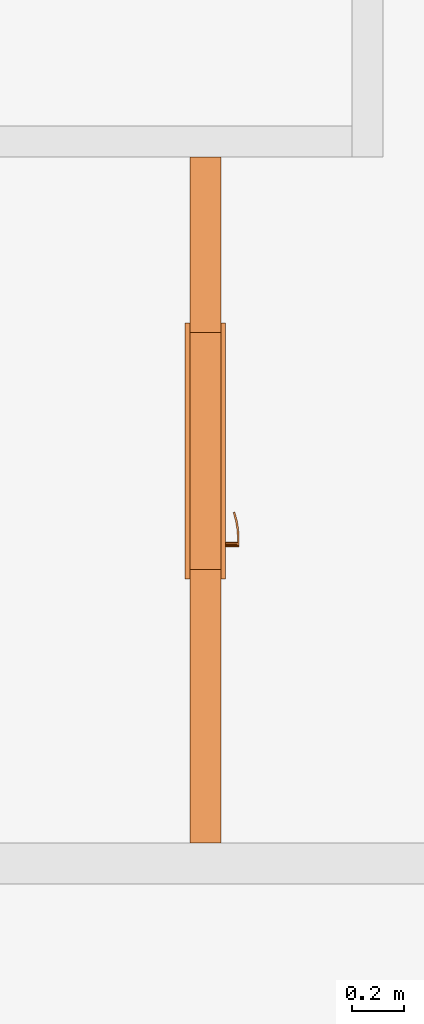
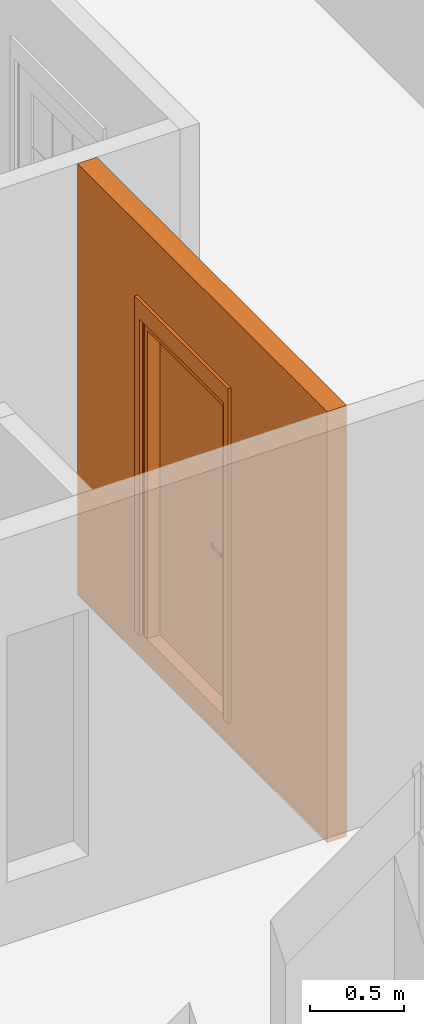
# One storey, part 24 of 66: 2 proxies, 1 opening.
"""IFC2X3 building model written with IfcOpenShell, lengths in millimetres."""

import ifcopenshell
import ifcopenshell.guid

model = None  # the IFC model being written
_history = None  # IfcOwnerHistory: only IFC2X3 demands one
_inside = {}  # id of a spatial element -> (the spatial element, [elements in it])
_under = {}  # id of a project, library or spatial element -> (it, [spatial elements below it])
_declared = {}  # id of a project -> (the project, [libraries it declares])
_typed = {}  # id of a type object -> (the type object, [elements of that type])
_made_of = {}  # id of a material, layer set ... -> (it, [elements and type objects made of it])


def new_model(schema):
    """Start an empty IFC model of exactly this schema.

    Asked for "IFC4X3", IfcOpenShell would pick the latest addendum, in which some entities
    have other attributes; the version numbers below select the first issue.
    IFC2X3 requires an IfcOwnerHistory on every rooted entity: one is made here for all.
    """
    global model, _history
    if schema == "IFC4X3":
        model = ifcopenshell.file(schema_version=(4, 3, 0, 0))
    else:
        model = ifcopenshell.file(schema=schema)
    _inside.clear()
    _under.clear()
    _declared.clear()
    _typed.clear()
    _made_of.clear()
    _history = None
    if model.schema == "IFC2X3":
        org = make("IfcOrganization", Name="unknown")
        user = make(
            "IfcPersonAndOrganization",
            ThePerson=make("IfcPerson", FamilyName="unknown"),
            TheOrganization=org,
        )
        app = make(
            "IfcApplication",
            ApplicationDeveloper=org,
            Version="unknown",
            ApplicationFullName="unknown",
            ApplicationIdentifier="unknown",
        )
        _history = make(
            "IfcOwnerHistory",
            OwningUser=user,
            OwningApplication=app,
            ChangeAction="ADDED",
            CreationDate=0,
        )
    return model


def make(cls, **values):
    """One entity of the class cls with the attributes given. An attribute that is None is left unset."""
    return model.create_entity(
        cls, **{name: value for name, value in values.items() if value is not None}
    )


def entity(cls, *values):
    """Any entity or typed value of the class cls, its attributes in the order of the schema. None: left unset."""
    e = model.create_entity(cls)
    for i, value in enumerate(values):
        if value is not None:
            e[i] = value
    return e


def rooted(cls, **values):
    """An entity with a GlobalId (a new one), such as an element, a storey or a relation."""
    return make(cls, GlobalId=ifcopenshell.guid.new(), OwnerHistory=_history, **values)


def si_unit(unit_type, name, prefix=None):
    """IfcSIUnit, for example si_unit("LENGTHUNIT", "METRE", prefix="MILLI")."""
    return make("IfcSIUnit", UnitType=unit_type, Prefix=prefix, Name=name)


def converted_unit(unit_type, name, factor, base, dimensions=None, offset=None):
    """IfcConversionBasedUnit, such as the inch: factor (a typed value) times the base unit."""
    return make(
        "IfcConversionBasedUnit"
        if offset is None
        else "IfcConversionBasedUnitWithOffset",
        ConversionOffset=offset,
        Dimensions=None
        if dimensions is None
        else entity("IfcDimensionalExponents", *dimensions),
        UnitType=unit_type,
        Name=name,
        ConversionFactor=make(
            "IfcMeasureWithUnit", ValueComponent=factor, UnitComponent=base
        ),
    )


def derived_unit(unit_type, elements):
    """IfcDerivedUnit: a product of units, each with its exponent."""
    return make(
        "IfcDerivedUnit",
        Elements=[
            make("IfcDerivedUnitElement", Unit=unit, Exponent=power)
            for unit, power in elements
        ],
        UnitType=unit_type,
    )


def money_unit(currency):
    """IfcMonetaryUnit."""
    return make("IfcMonetaryUnit", Currency=currency)


def assignment(units):
    """IfcUnitAssignment: the units of a project."""
    return None if units is None else make("IfcUnitAssignment", Units=units)


def point(xyz):
    """IfcCartesianPoint."""
    return None if xyz is None else make("IfcCartesianPoint", Coordinates=xyz)


def direction(xyz):
    """IfcDirection."""
    return None if xyz is None else make("IfcDirection", DirectionRatios=xyz)


def frame(location, z_axis=None, x_axis=None):
    """IfcAxis2Placement3D, a coordinate frame: its origin and axes. An axis left out is left unset."""
    return make(
        "IfcAxis2Placement3D",
        Location=point(location),
        Axis=direction(z_axis),
        RefDirection=direction(x_axis),
    )


def frame_2d(location, x_axis=None):
    """IfcAxis2Placement2D, a coordinate frame in the plane: its origin and x axis."""
    return make(
        "IfcAxis2Placement2D", Location=point(location), RefDirection=direction(x_axis)
    )


def origin_with_axes():
    """The frame at (0, 0, 0) with the z axis (0, 0, 1) and the x axis (1, 0, 0) written out."""
    return frame((0.0, 0.0, 0.0), z_axis=(0.0, 0.0, 1.0), x_axis=(1.0, 0.0, 0.0))


def origin_2d_with_axis():
    """The frame at (0, 0) in the plane with the x axis (1, 0) written out."""
    return frame_2d((0.0, 0.0), x_axis=(1.0, 0.0))


def place(relative_to, where):
    """IfcLocalPlacement: puts the frame where relative to a parent placement (None: the world)."""
    return make(
        "IfcLocalPlacement", PlacementRelTo=relative_to, RelativePlacement=where
    )


def context(
    kind, dimensions, precision=None, world=None, true_north=None, identifier=None
):
    """IfcGeometricRepresentationContext, for example the 3D "Model" context."""
    return make(
        "IfcGeometricRepresentationContext",
        ContextIdentifier=identifier,
        ContextType=kind,
        CoordinateSpaceDimension=dimensions,
        Precision=precision,
        WorldCoordinateSystem=world,
        TrueNorth=true_north,
    )


def subcontext(parent, identifier, kind, view, scale=None):
    """IfcGeometricRepresentationSubContext, for example "Body" below "Model"."""
    return make(
        "IfcGeometricRepresentationSubContext",
        ContextIdentifier=identifier,
        ContextType=kind,
        ParentContext=parent,
        TargetScale=scale,
        TargetView=view,
    )


def project(units=None, contexts=None):
    """IfcProject with its units and contexts."""
    return rooted(
        "IfcProject",
        Name="project",
        RepresentationContexts=contexts,
        UnitsInContext=assignment(units),
    )


def spatial(cls, under=None, at=None, **own):
    """A site, building, storey or space (cls), placed at a placement, below another one or the project."""
    s = rooted(cls, ObjectPlacement=at, **own)
    if under is not None:
        _under.setdefault(under.id(), (under, []))[1].append(s)
    return s


def profile(cls, at=None, kind="AREA", **sizes):
    """A parametric profile (cls). Its sizes go by their IFC names, for example OverallWidth=200.0."""
    return make(cls, ProfileType=kind, Position=at, **sizes)


def rectangle(**sizes):
    """IfcRectangleProfileDef."""
    return profile("IfcRectangleProfileDef", **sizes)


def extrude(swept, where, along, depth):
    """IfcExtrudedAreaSolid: the profile swept, set in the frame where, extruded along a direction by depth."""
    return make(
        "IfcExtrudedAreaSolid",
        SweptArea=swept,
        Position=where,
        ExtrudedDirection=direction(along),
        Depth=depth,
    )


def faces_of(points, faces, orient=None, outer=None):
    """IfcFace entities. A face is a list of loops; a loop is a list of indices into points, from 0.

    orient and outer hold one flag for each loop. By default every Orientation is true, the
    first loop of a face is its IfcFaceOuterBound and the others are IfcFaceBound.
    """
    made = []
    for i, loops in enumerate(faces):
        bounds = []
        for j, loop in enumerate(loops):
            is_outer = j == 0 if outer is None else outer[i][j]
            bounds.append(
                make(
                    "IfcFaceOuterBound" if is_outer else "IfcFaceBound",
                    Bound=make("IfcPolyLoop", Polygon=[points[k] for k in loop]),
                    Orientation=True if orient is None else orient[i][j],
                )
            )
        made.append(make("IfcFace", Bounds=bounds))
    return made


def open_shell(faces, orient=None, outer=None):
    """The faces of one IfcOpenShell. surface_model builds it on its shared points."""
    return ("IfcOpenShell", faces, orient, outer)


def faceted_brep(points, faces, orient=None, outer=None, voids=None):
    """IfcFacetedBrep: a solid bounded by flat faces; with voids (closed shells), ...WithVoids."""
    shared = [point(p) for p in points]
    hull = make("IfcClosedShell", CfsFaces=faces_of(shared, faces, orient, outer))
    if voids is None:
        return make("IfcFacetedBrep", Outer=hull)
    return make(
        "IfcFacetedBrepWithVoids",
        Outer=hull,
        Voids=[
            make(cls, CfsFaces=faces_of(shared, fs, o, b)) for cls, fs, o, b in voids
        ],
    )


def surface_model(cls, points, shells):
    """IfcFaceBasedSurfaceModel or IfcShellBasedSurfaceModel (cls): surfaces that need not close."""
    shared = [point(p) for p in points]
    made = [make(c, CfsFaces=faces_of(shared, fs, o, b)) for c, fs, o, b in shells]
    if cls == "IfcFaceBasedSurfaceModel":
        return make(cls, FbsmFaces=made)
    return make(cls, SbsmBoundary=made)


def shape(context_of_items, identifier, shape_type, items):
    """IfcShapeRepresentation: the items that make up one representation, for example the "Body"."""
    return make(
        "IfcShapeRepresentation",
        ContextOfItems=context_of_items,
        RepresentationIdentifier=identifier,
        RepresentationType=shape_type,
        Items=items,
    )


def source(mapping_origin, context_of_items, identifier, shape_type, items):
    """IfcRepresentationMap: a shape defined once, which mapped items show again and again."""
    return make(
        "IfcRepresentationMap",
        MappingOrigin=mapping_origin,
        MappedRepresentation=shape(context_of_items, identifier, shape_type, items),
    )


def transform(
    local_origin,
    x_axis=None,
    y_axis=None,
    z_axis=None,
    scale=None,
    scale2=None,
    scale3=None,
    uniform=True,
):
    """IfcCartesianTransformationOperator3D, or its non-uniform kind. x_axis, y_axis, z_axis: its Axis1, 2, 3."""
    if uniform:
        return make(
            "IfcCartesianTransformationOperator3D",
            Axis1=direction(x_axis),
            Axis2=direction(y_axis),
            LocalOrigin=point(local_origin),
            Scale=scale,
            Axis3=direction(z_axis),
        )
    return make(
        "IfcCartesianTransformationOperator3DnonUniform",
        Axis1=direction(x_axis),
        Axis2=direction(y_axis),
        LocalOrigin=point(local_origin),
        Scale=scale,
        Axis3=direction(z_axis),
        Scale2=scale2,
        Scale3=scale3,
    )


def mapped(mapping_source, mapping_target):
    """IfcMappedItem: shows the shape of a source again, moved by a transform."""
    return make(
        "IfcMappedItem", MappingSource=mapping_source, MappingTarget=mapping_target
    )


def material(Name=None, Category=None):
    """IfcMaterial."""
    return make("IfcMaterial", Name=Name, Category=Category)


def made_of(thing, what):
    """Note that an element or type object is made of a material, layer set ...; save() writes the relation."""
    if what is not None:
        _made_of.setdefault(what.id(), (what, []))[1].append(thing)
    return thing


def type_object(cls, material=None, **own):
    """A type object (cls), such as IfcWallType, which elements share."""
    return made_of(rooted(cls, **own), material)


def element(
    cls,
    number,
    at=None,
    inside=None,
    cuts=None,
    type_object=None,
    material=None,
    context=None,
    identifier="Body",
    shape_type=None,
    held_by="IfcProductDefinitionShape",
    body=None,
    shapes=None,
    **own,
):
    """One element of the class cls, such as IfcWall. Its Tag is "e" and its number.

    at: its placement. inside: the storey or other place that contains it. cuts: it is an
    opening in that element (IfcRelVoidsElement). A single representation is given by context,
    identifier, shape_type and body (its items); several are given by shapes. held_by: the class
    of the entity that holds the representations. save() writes the other relations.
    """
    e = rooted(cls, Tag="e%d" % number, ObjectPlacement=at, **own)
    if body is not None:
        shapes = [shape(context, identifier, shape_type, body)]
    if shapes is not None:
        e.Representation = make(held_by, Representations=shapes)
    if inside is not None:
        _inside.setdefault(inside.id(), (inside, []))[1].append(e)
    if cuts is not None:
        rooted(
            "IfcRelVoidsElement", RelatingBuildingElement=cuts, RelatedOpeningElement=e
        )
    if type_object is not None:
        _typed.setdefault(type_object.id(), (type_object, []))[1].append(e)
    return made_of(e, material)


def fill(opening, filler):
    """IfcRelFillsElement: the door or window that sits in an opening."""
    return rooted(
        "IfcRelFillsElement",
        RelatingOpeningElement=opening,
        RelatedBuildingElement=filler,
    )


def aggregate(whole, parts):
    """IfcRelAggregates: a whole, such as a stair, and the parts it consists of."""
    return rooted("IfcRelAggregates", RelatingObject=whole, RelatedObjects=parts)


def save(model, path):
    """Write the relations noted so far, then the file.

    IfcRelAggregates (storeys below a building ...), IfcRelContainedInSpatialStructure (elements
    in a storey), IfcRelDefinesByType, IfcRelAssociatesMaterial and IfcRelDeclares: one each for
    every whole, place, type object, material and project.
    """
    for whole, parts in _under.values():
        aggregate(whole, parts)
    for where, things in _inside.values():
        rooted(
            "IfcRelContainedInSpatialStructure",
            RelatedElements=things,
            RelatingStructure=where,
        )
    for kind, things in _typed.values():
        rooted("IfcRelDefinesByType", RelatedObjects=things, RelatingType=kind)
    for what, things in _made_of.values():
        rooted("IfcRelAssociatesMaterial", RelatedObjects=things, RelatingMaterial=what)
    for by, libraries in _declared.values():
        rooted("IfcRelDeclares", RelatingContext=by, RelatedDefinitions=libraries)
    model.write(path)


model = new_model("IFC2X3")

# Units and contexts
model_context = context("Model", 3, precision=0.01, world=origin_with_axes(), true_north=direction((0.34421633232, 0.938890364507)))
body_context = subcontext(model_context, "Body", "Model", "MODEL_VIEW")
ifc_project = project(units=[si_unit("LENGTHUNIT", "METRE", prefix="MILLI"), si_unit("AREAUNIT", "SQUARE_METRE"), si_unit("VOLUMEUNIT", "CUBIC_METRE"), converted_unit("PLANEANGLEUNIT", "DEGREE", entity("IfcPlaneAngleMeasure", 0.0174532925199), si_unit("PLANEANGLEUNIT", "RADIAN"), dimensions=[0, 0, 0, 0, 0, 0, 0]), si_unit("SOLIDANGLEUNIT", "STERADIAN"), money_unit("USD"), converted_unit("TIMEUNIT", "Year", entity("IfcTimeMeasure", 31556926.0), si_unit("TIMEUNIT", "SECOND"), dimensions=[0, 0, 1, 0, 0, 0, 0]), si_unit("MASSUNIT", "GRAM", prefix="KILO"), si_unit("THERMODYNAMICTEMPERATUREUNIT", "DEGREE_CELSIUS"), si_unit("LUMINOUSINTENSITYUNIT", "LUMEN"), si_unit("ENERGYUNIT", "JOULE", prefix="MEGA"), derived_unit("THERMALCONDUCTANCEUNIT", [(si_unit("POWERUNIT", "WATT"), 1), (si_unit("LENGTHUNIT", "METRE"), -1), (si_unit("THERMODYNAMICTEMPERATUREUNIT", "KELVIN"), -1)]), derived_unit("SPECIFICHEATCAPACITYUNIT", [(si_unit("ENERGYUNIT", "JOULE"), 1), (si_unit("MASSUNIT", "GRAM", prefix="KILO"), -1), (si_unit("THERMODYNAMICTEMPERATUREUNIT", "KELVIN"), -1)]), derived_unit("MASSDENSITYUNIT", [(si_unit("MASSUNIT", "GRAM", prefix="KILO"), 1), (si_unit("VOLUMEUNIT", "CUBIC_METRE"), -1)])], contexts=[model_context])

# Site, building, storey
site_placement = place(None, origin_with_axes())
site = spatial("IfcSite", under=ifc_project, at=site_placement, Name="USTRONIE MORSKIE", CompositionType="ELEMENT")
building_placement = place(site_placement, origin_with_axes())
building = spatial("IfcBuilding", under=site, at=building_placement, Name="Budynek", CompositionType="ELEMENT")
storey_placement = place(building_placement, frame((0.0, 0.0, 10000.0), z_axis=(0.0, 0.0, 1.0), x_axis=(1.0, 0.0, 0.0)))
storey = spatial("IfcBuildingStorey", under=building, at=storey_placement, Name="PIĘTRO 3", CompositionType="ELEMENT", Elevation=10000.0)

# Proxies, opening
ifc_material = material(Name="Bloczki silikatowe")
building_element_proxy_type_1 = type_object("IfcBuildingElementProxyType", Name="Bloczki silikatowe 120", PredefinedType="NOTDEFINED")
proxy_1_placement = place(storey_placement, frame((404537.920919, 739651.199937, -160.0), z_axis=(0.0, 0.0, 1.0), x_axis=(0.0, -1.0, 0.0)))
proxy_1 = element("IfcBuildingElementProxy", 1, at=proxy_1_placement, inside=storey, type_object=building_element_proxy_type_1, material=ifc_material, Name="SW-04", context=body_context, shape_type="Brep", body=[
    faceted_brep([(2720.00090117, 60.0, 0.0), (2720.00090117, -60.0, 0.0), (59.9999999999, -60.0, 0.0), (59.9999999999, 60.0, 0.0), (2720.00090117, 60.0, 2800.0), (2720.00090117, -60.0, 2800.0), (59.9999999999, -60.0, 2800.0), (59.9999999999, 60.0, 2800.0)], [[[0, 1, 2, 3]], [[1, 0, 4, 5]], [[1, 5, 6, 2]], [[7, 3, 2, 6]], [[4, 0, 3, 7]], [[5, 4, 7, 6]]]),
])
opening_placement = place(proxy_1_placement, frame((1200.00090117, 0.0, 160.0), z_axis=(0.0, 0.0, 1.0), x_axis=(1.0, 0.0, 0.0)))
opening = element("IfcOpeningElement", 2, at=opening_placement, cuts=proxy_1, Name="Dw.4", context=body_context, shape_type="SweptSolid", body=[
    extrude(rectangle(XDim=920.0, YDim=2070.0, at=origin_2d_with_axis()), frame((0.0, -120.0, 1035.0), z_axis=(0.0, -1.0, 0.0), x_axis=(-1.0, 0.0, 0.0)), (0.0, 0.0, -1.0), 360.0),
    extrude(rectangle(XDim=994.0, YDim=2177.0, at=origin_2d_with_axis()), frame((0.0, -60.0, 1088.5), z_axis=(0.0, -1.0, 0.0), x_axis=(-1.0, 0.0, 0.0)), (0.0, 0.0, 1.0), 120.0),
    extrude(rectangle(XDim=994.0, YDim=2177.0, at=origin_2d_with_axis()), frame((0.0, 60.0, 1088.5), z_axis=(0.0, 1.0, 0.0), x_axis=(-1.0, 0.0, 0.0)), (0.0, 0.0, 1.0), 120.0),
])
building_element_proxy_type_2 = type_object("IfcBuildingElementProxyType", Name="Drzwi 23", PredefinedType="NOTDEFINED")
shared_shape = source(origin_with_axes(), body_context, "Body", "SurfaceModel", [
    faceted_brep([(460.0, -115.0, 0.0), (460.0, -120.0, 0.0), (435.0, -120.0, 0.0), (435.0, -115.0, 0.0), (460.0, -115.0, 2070.0), (460.0, -120.0, 2070.0), (435.0, -120.0, 2045.0), (435.0, -115.0, 2045.0)], [[[0, 1, 2, 3]], [[4, 5, 1, 0]], [[1, 5, 6, 2]], [[3, 2, 6, 7]], [[0, 3, 7, 4]], [[7, 6, 5, 4]]]),
    faceted_brep([(-460.0, -115.0, 2070.0), (-460.0, -120.0, 2070.0), (-435.0, -120.0, 2045.0), (-435.0, -115.0, 2045.0), (-460.0, -115.0, 0.0), (-460.0, -120.0, 0.0), (-435.0, -120.0, 0.0), (-435.0, -115.0, 0.0)], [[[0, 1, 2, 3]], [[4, 5, 1, 0]], [[1, 5, 6, 2]], [[3, 2, 6, 7]], [[0, 3, 7, 4]], [[7, 6, 5, 4]]]),
    faceted_brep([(435.0, -115.0, 2045.0), (435.0, -120.0, 2045.0), (-435.0, -120.0, 2045.0), (-435.0, -115.0, 2045.0), (460.0, -115.0, 2070.0), (460.0, -120.0, 2070.0), (-460.0, -120.0, 2070.0), (-460.0, -115.0, 2070.0)], [[[0, 1, 2, 3]], [[4, 5, 1, 0]], [[1, 5, 6, 2]], [[3, 2, 6, 7]], [[0, 3, 7, 4]], [[7, 6, 5, 4]]]),
    faceted_brep([(497.0, -139.0, 0.0), (447.0, -139.0, 0.0), (447.0, -120.0, 0.0), (497.0, -120.0, 0.0), (497.0, -139.0, 2177.0), (447.0, -139.0, 2057.0), (447.0, -120.0, 2057.0), (497.0, -120.0, 2177.0)], [[[0, 1, 2, 3]], [[0, 4, 5, 1]], [[1, 5, 6, 2]], [[3, 2, 6, 7]], [[4, 0, 3, 7]], [[5, 4, 7, 6]]]),
    faceted_brep([(-497.0, -139.0, 2177.0), (-447.0, -139.0, 2057.0), (-447.0, -120.0, 2057.0), (-497.0, -120.0, 2177.0), (-497.0, -139.0, 0.0), (-447.0, -139.0, 0.0), (-447.0, -120.0, 0.0), (-497.0, -120.0, 0.0)], [[[0, 1, 2, 3]], [[0, 4, 5, 1]], [[1, 5, 6, 2]], [[3, 2, 6, 7]], [[4, 0, 3, 7]], [[5, 4, 7, 6]]]),
    faceted_brep([(497.0, -139.0, 2177.0), (447.0, -139.0, 2057.0), (447.0, -120.0, 2057.0), (497.0, -120.0, 2177.0), (-497.0, -139.0, 2177.0), (-447.0, -139.0, 2057.0), (-447.0, -120.0, 2057.0), (-497.0, -120.0, 2177.0)], [[[0, 1, 2, 3]], [[0, 4, 5, 1]], [[1, 5, 6, 2]], [[3, 2, 6, 7]], [[4, 0, 3, 7]], [[5, 4, 7, 6]]]),
    faceted_brep([(497.0, 19.0, 0.0), (497.0, 0.0, 0.0), (447.0, 0.0, 0.0), (447.0, 19.0, 0.0), (497.0, 19.0, 2177.0), (497.0, 0.0, 2177.0), (447.0, 0.0, 2057.0), (447.0, 19.0, 2057.0)], [[[0, 1, 2, 3]], [[4, 5, 1, 0]], [[1, 5, 6, 2]], [[3, 2, 6, 7]], [[0, 3, 7, 4]], [[7, 6, 5, 4]]]),
    faceted_brep([(-497.0, 19.0, 2177.0), (-497.0, 0.0, 2177.0), (-447.0, 0.0, 2057.0), (-447.0, 19.0, 2057.0), (-497.0, 19.0, 0.0), (-497.0, 0.0, 0.0), (-447.0, 0.0, 0.0), (-447.0, 19.0, 0.0)], [[[0, 1, 2, 3]], [[4, 5, 1, 0]], [[1, 5, 6, 2]], [[3, 2, 6, 7]], [[0, 3, 7, 4]], [[7, 6, 5, 4]]]),
    faceted_brep([(497.0, 19.0, 2177.0), (497.0, 0.0, 2177.0), (447.0, 0.0, 2057.0), (447.0, 19.0, 2057.0), (-497.0, 19.0, 2177.0), (-497.0, 0.0, 2177.0), (-447.0, 0.0, 2057.0), (-447.0, 19.0, 2057.0)], [[[0, 1, 2, 3]], [[4, 5, 1, 0]], [[1, 5, 6, 2]], [[3, 2, 6, 7]], [[0, 3, 7, 4]], [[7, 6, 5, 4]]]),
    faceted_brep([(400.0, -40.0, 0.0), (400.0, -115.0, 0.0), (400.0, -115.0, 2000.0), (400.0, -40.0, 2000.0), (412.0, -40.0, 0.0), (412.0, 0.0, 0.0), (460.0, 0.0, 0.0), (460.0, -115.0, 0.0), (460.0, -115.0, 2000.0), (412.0, -40.0, 2000.0), (460.0, 0.0, 2000.0), (412.0, 0.0, 2000.0)], [[[0, 1, 2, 3]], [[4, 5, 6, 7, 1, 0]], [[1, 7, 8, 2]], [[9, 3, 2, 8, 10, 11]], [[9, 4, 0, 3]], [[11, 5, 4, 9]], [[11, 10, 6, 5]], [[6, 10, 8, 7]]]),
    faceted_brep([(-412.0, -40.0, 2000.0), (-412.0, 0.0, 2000.0), (-460.0, 0.0, 2000.0), (-460.0, -115.0, 2000.0), (-400.0, -115.0, 2000.0), (-400.0, -40.0, 2000.0), (-412.0, -40.0, 0.0), (-412.0, 0.0, 0.0), (-460.0, 0.0, 0.0), (-460.0, -115.0, 0.0), (-400.0, -115.0, 0.0), (-400.0, -40.0, 0.0)], [[[0, 1, 2, 3, 4, 5]], [[0, 6, 7, 1]], [[7, 8, 2, 1]], [[2, 8, 9, 3]], [[3, 9, 10, 4]], [[5, 4, 10, 11]], [[5, 11, 6, 0]], [[6, 11, 10, 9, 8, 7]]]),
    faceted_brep([(412.0, 0.0, 2012.0), (-412.0, 0.0, 2012.0), (-412.0, 0.0, 2000.0), (-460.0, 0.0, 2000.0), (-460.0, 0.0, 2070.0), (460.0, 0.0, 2070.0), (460.0, 0.0, 2000.0), (412.0, 0.0, 2000.0), (412.0, -40.0, 2012.0), (-412.0, -40.0, 2012.0), (-412.0, -40.0, 2000.0), (-400.0, -40.0, 2000.0), (-400.0, -115.0, 2000.0), (-460.0, -115.0, 2000.0), (-460.0, -115.0, 2070.0), (460.0, -115.0, 2070.0), (460.0, -115.0, 2000.0), (412.0, -40.0, 2000.0), (400.0, -115.0, 2000.0), (400.0, -40.0, 2000.0)], [[[0, 1, 2, 3, 4, 5, 6, 7]], [[0, 8, 9, 1]], [[1, 9, 10, 2]], [[10, 11, 12, 13, 3, 2]], [[4, 3, 13, 14]], [[5, 4, 14, 15]], [[6, 5, 15, 16]], [[17, 7, 6, 16, 18, 19]], [[7, 17, 8, 0]], [[10, 9, 8, 17, 19, 11]], [[19, 18, 12, 11]], [[12, 18, 16, 15, 14, 13]]]),
    faceted_brep([(390.5, -40.0, 1060.0), (333.5, -40.0, 1060.0), (333.5, -43.0, 1060.0), (390.5, -43.0, 1060.0), (390.5, -40.0, 870.0), (333.5, -40.0, 870.0), (333.5, -43.0, 870.0), (390.5, -43.0, 870.0)], [[[0, 1, 2, 3]], [[0, 4, 5, 1]], [[1, 5, 6, 2]], [[3, 2, 6, 7]], [[4, 0, 3, 7]], [[5, 4, 7, 6]]]),
    faceted_brep([(362.0, -104.0, 990.0), (367.0, -104.0, 991.339745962), (367.0, -111.0, 991.339745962), (362.0, -111.0, 990.0), (337.0, -104.0, 990.0), (337.0, -104.0, 1010.0), (362.0, -104.0, 1010.0), (367.0, -104.0, 1008.66025404), (370.660254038, -104.0, 1005.0), (372.0, -104.0, 1000.0), (370.660254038, -104.0, 995.0), (370.660254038, -111.0, 995.0), (372.0, -111.0, 1000.0), (370.660254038, -111.0, 1005.0), (367.0, -111.0, 1008.66025404), (362.0, -111.0, 1010.0), (337.0, -111.0, 1010.0), (337.0, -111.0, 990.0)], [[[0, 1, 2, 3]], [[0, 4, 5, 6, 7, 8, 9, 10, 1]], [[1, 10, 11, 2]], [[3, 2, 11, 12, 13, 14, 15, 16, 17]], [[4, 0, 3, 17]], [[5, 4, 17, 16]], [[6, 5, 16, 15]], [[7, 6, 15, 14]], [[8, 7, 14, 13]], [[9, 8, 13, 12]], [[10, 9, 12, 11]]]),
    surface_model("IfcShellBasedSurfaceModel", [(337.0, -104.0, 1010.0), (323.901717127, -104.0, 1009.60730092), (323.596090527, -111.0, 1009.60730092), (337.0, -104.0, 990.0), (323.901717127, -104.0, 990.392699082), (296.890283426, -108.663544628, 1008.82190275), (337.0, -111.0, 1010.0), (337.0, -111.0, 990.0), (297.804837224, -101.716818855, 991.178097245), (297.804837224, -101.716818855, 1008.82190275), (296.890283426, -108.663544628, 991.178097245), (323.596090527, -111.0, 990.392699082), (272.006256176, -97.1678329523, 991.963495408), (272.006256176, -97.1678329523, 1008.03650459), (270.489735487, -104.008415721, 1008.03650459), (270.489735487, -104.008415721, 991.963495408), (246.702316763, -90.3876628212, 992.748893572), (246.702316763, -90.3876628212, 1007.25110643), (244.59537082, -97.0700416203, 1007.25110643), (244.59537082, -97.0700416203, 992.748893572), (238.829442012, -87.5221707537, 993.0), (238.829442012, -87.5221707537, 1007.0), (236.538795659, -94.1376880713, 1007.0), (236.538795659, -94.1376880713, 993.0)], [open_shell([[[0, 1, 2]], [[0, 3, 4, 1]], [[1, 5, 2]], [[0, 2, 6]], [[4, 3, 7]], [[1, 4, 8, 9]], [[1, 9, 5]], [[2, 5, 10, 11]], [[6, 2, 11, 7]], [[4, 7, 11]], [[8, 4, 11]], [[9, 8, 12, 13]], [[9, 14, 5]], [[5, 14, 15, 10]], [[8, 11, 10]], [[12, 8, 10]], [[13, 12, 16, 17]], [[9, 13, 14]], [[14, 18, 19, 15]], [[12, 10, 15]], [[16, 12, 15]], [[17, 16, 20, 21]], [[13, 17, 18]], [[13, 18, 14]], [[18, 22, 23, 19]], [[16, 15, 19]], [[20, 16, 19]], [[21, 20, 23, 22]], [[17, 21, 22]], [[17, 22, 18]], [[20, 19, 23]]])]),
    faceted_brep([(351.607695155, -53.0, 994.0), (350.0, -53.0, 1000.0), (349.0, -43.0, 1000.0), (350.741669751, -43.0, 993.5), (356.0, -53.0, 989.607695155), (362.0, -53.0, 988.0), (368.0, -53.0, 989.607695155), (372.392304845, -53.0, 994.0), (374.0, -53.0, 1000.0), (372.392304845, -53.0, 1006.0), (368.0, -53.0, 1010.39230485), (362.0, -53.0, 1012.0), (356.0, -53.0, 1010.39230485), (351.607695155, -53.0, 1006.0), (350.741669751, -43.0, 1006.5), (355.5, -43.0, 1011.25833025), (362.0, -43.0, 1013.0), (368.5, -43.0, 1011.25833025), (373.258330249, -43.0, 1006.5), (375.0, -43.0, 1000.0), (373.258330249, -43.0, 993.5), (368.5, -43.0, 988.741669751), (362.0, -43.0, 987.0), (355.5, -43.0, 988.741669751)], [[[0, 1, 2, 3]], [[1, 0, 4, 5, 6, 7, 8, 9, 10, 11, 12, 13]], [[1, 13, 14, 2]], [[2, 14, 15, 16, 17, 18, 19, 20, 21, 22, 23, 3]], [[4, 0, 3, 23]], [[5, 4, 23, 22]], [[6, 5, 22, 21]], [[7, 6, 21, 20]], [[8, 7, 20, 19]], [[9, 8, 19, 18]], [[10, 9, 18, 17]], [[11, 10, 17, 16]], [[12, 11, 16, 15]], [[13, 12, 15, 14]]]),
    faceted_brep([(344.679491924, -47.0, 895.0), (342.0, -47.0, 905.0), (340.0, -43.0, 905.0), (342.947441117, -43.0, 894.0), (352.0, -47.0, 887.679491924), (362.0, -47.0, 885.0), (372.0, -47.0, 887.679491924), (379.320508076, -47.0, 895.0), (382.0, -47.0, 905.0), (379.320508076, -47.0, 915.0), (372.0, -47.0, 922.320508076), (362.0, -47.0, 925.0), (352.0, -47.0, 922.320508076), (344.679491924, -47.0, 915.0), (342.947441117, -43.0, 916.0), (351.0, -43.0, 924.052558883), (362.0, -43.0, 927.0), (373.0, -43.0, 924.052558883), (381.052558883, -43.0, 916.0), (384.0, -43.0, 905.0), (381.052558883, -43.0, 894.0), (373.0, -43.0, 885.947441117), (362.0, -43.0, 883.0), (351.0, -43.0, 885.947441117)], [[[0, 1, 2, 3]], [[1, 0, 4, 5, 6, 7, 8, 9, 10, 11, 12, 13]], [[1, 13, 14, 2]], [[2, 14, 15, 16, 17, 18, 19, 20, 21, 22, 23, 3]], [[4, 0, 3, 23]], [[5, 4, 23, 22]], [[6, 5, 22, 21]], [[7, 6, 21, 20]], [[8, 7, 20, 19]], [[9, 8, 19, 18]], [[10, 9, 18, 17]], [[11, 10, 17, 16]], [[12, 11, 16, 15]], [[13, 12, 15, 14]]]),
    faceted_brep([(357.050252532, -49.0, 909.050252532), (355.0, -49.0, 914.0), (354.0, -47.0, 914.0), (356.343145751, -47.0, 908.343145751), (362.0, -49.0, 907.0), (366.949747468, -49.0, 909.050252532), (369.0, -49.0, 914.0), (366.949747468, -49.0, 918.949747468), (362.0, -49.0, 921.0), (357.050252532, -49.0, 918.949747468), (356.343145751, -47.0, 919.656854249), (362.0, -47.0, 922.0), (367.656854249, -47.0, 919.656854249), (370.0, -47.0, 914.0), (367.656854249, -47.0, 908.343145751), (362.0, -47.0, 906.0)], [[[0, 1, 2, 3]], [[1, 0, 4, 5, 6, 7, 8, 9]], [[1, 9, 10, 2]], [[2, 10, 11, 12, 13, 14, 15, 3]], [[4, 0, 3, 15]], [[5, 4, 15, 14]], [[6, 5, 14, 13]], [[7, 6, 13, 12]], [[8, 7, 12, 11]], [[9, 8, 11, 10]]]),
    faceted_brep([(362.0, -53.0, 1010.0), (357.0, -53.0, 1008.66025404), (357.0, -104.0, 1008.66025404), (362.0, -104.0, 1010.0), (367.0, -53.0, 1008.66025404), (370.660254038, -53.0, 1005.0), (372.0, -53.0, 1000.0), (370.660254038, -53.0, 995.0), (367.0, -53.0, 991.339745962), (362.0, -53.0, 990.0), (357.0, -53.0, 991.339745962), (353.339745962, -53.0, 995.0), (352.0, -53.0, 1000.0), (353.339745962, -53.0, 1005.0), (353.339745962, -104.0, 1005.0), (352.0, -104.0, 1000.0), (353.339745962, -104.0, 995.0), (357.0, -104.0, 991.339745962), (362.0, -104.0, 990.0), (367.0, -104.0, 991.339745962), (370.660254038, -104.0, 995.0), (372.0, -104.0, 1000.0), (370.660254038, -104.0, 1005.0), (367.0, -104.0, 1008.66025404)], [[[0, 1, 2, 3]], [[0, 4, 5, 6, 7, 8, 9, 10, 11, 12, 13, 1]], [[1, 13, 14, 2]], [[3, 2, 14, 15, 16, 17, 18, 19, 20, 21, 22, 23]], [[4, 0, 3, 23]], [[5, 4, 23, 22]], [[6, 5, 22, 21]], [[7, 6, 21, 20]], [[8, 7, 20, 19]], [[9, 8, 19, 18]], [[10, 9, 18, 17]], [[11, 10, 17, 16]], [[12, 11, 16, 15]], [[13, 12, 15, 14]]]),
    faceted_brep([(390.5, 0.0, 1060.0), (390.5, 3.0, 1060.0), (333.5, 3.0, 1060.0), (333.5, 0.0, 1060.0), (390.5, 0.0, 870.0), (390.5, 3.0, 870.0), (333.5, 3.0, 870.0), (333.5, 0.0, 870.0)], [[[0, 1, 2, 3]], [[4, 5, 1, 0]], [[1, 5, 6, 2]], [[3, 2, 6, 7]], [[0, 3, 7, 4]], [[7, 6, 5, 4]]]),
    faceted_brep([(362.0, 64.0, 990.0), (362.0, 71.0, 990.0), (367.0, 71.0, 991.339745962), (367.0, 64.0, 991.339745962), (337.0, 64.0, 990.0), (337.0, 71.0, 990.0), (337.0, 71.0, 1010.0), (362.0, 71.0, 1010.0), (367.0, 71.0, 1008.66025404), (370.660254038, 71.0, 1005.0), (372.0, 71.0, 1000.0), (370.660254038, 71.0, 995.0), (370.660254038, 64.0, 995.0), (372.0, 64.0, 1000.0), (370.660254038, 64.0, 1005.0), (367.0, 64.0, 1008.66025404), (362.0, 64.0, 1010.0), (337.0, 64.0, 1010.0)], [[[0, 1, 2, 3]], [[4, 5, 1, 0]], [[1, 5, 6, 7, 8, 9, 10, 11, 2]], [[3, 2, 11, 12]], [[0, 3, 12, 13, 14, 15, 16, 17, 4]], [[17, 6, 5, 4]], [[16, 7, 6, 17]], [[15, 8, 7, 16]], [[14, 9, 8, 15]], [[13, 10, 9, 14]], [[12, 11, 10, 13]]]),
    surface_model("IfcShellBasedSurfaceModel", [(337.0, 64.0, 1010.0), (323.596090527, 71.0, 1009.60730092), (323.901717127, 64.0, 1009.60730092), (337.0, 71.0, 1010.0), (296.890283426, 68.6635446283, 1008.82190275), (323.901717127, 64.0, 990.392699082), (337.0, 64.0, 990.0), (337.0, 71.0, 990.0), (323.596090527, 71.0, 990.392699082), (296.890283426, 68.6635446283, 991.178097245), (297.804837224, 61.716818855, 1008.82190275), (297.804837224, 61.716818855, 991.178097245), (270.489735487, 64.0084157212, 991.963495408), (270.489735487, 64.0084157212, 1008.03650459), (272.006256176, 57.1678329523, 1008.03650459), (272.006256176, 57.1678329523, 991.963495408), (244.59537082, 57.0700416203, 992.748893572), (244.59537082, 57.0700416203, 1007.25110643), (246.702316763, 50.3876628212, 1007.25110643), (246.702316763, 50.3876628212, 992.748893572), (236.538795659, 54.1376880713, 993.0), (236.538795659, 54.1376880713, 1007.0), (238.829442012, 47.5221707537, 1007.0), (238.829442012, 47.5221707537, 993.0)], [open_shell([[[0, 1, 2]], [[0, 3, 1]], [[2, 1, 4]], [[0, 2, 5, 6]], [[3, 7, 8, 1]], [[1, 8, 9, 4]], [[2, 4, 10]], [[2, 10, 11, 5]], [[5, 7, 6]], [[5, 8, 7]], [[11, 9, 8]], [[4, 9, 12, 13]], [[10, 4, 13]], [[10, 14, 15, 11]], [[11, 8, 5]], [[15, 9, 11]], [[15, 12, 9]], [[13, 12, 16, 17]], [[10, 13, 14]], [[14, 18, 19, 15]], [[19, 12, 15]], [[19, 16, 12]], [[17, 16, 20, 21]], [[14, 13, 17]], [[14, 17, 18]], [[18, 22, 23, 19]], [[23, 16, 19]], [[23, 20, 16]], [[22, 21, 20, 23]], [[18, 17, 21]], [[18, 21, 22]]])]),
    faceted_brep([(351.607695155, 13.0, 994.0), (350.741669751, 3.0, 993.5), (349.0, 3.0, 1000.0), (350.0, 13.0, 1000.0), (356.0, 13.0, 989.607695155), (355.5, 3.0, 988.741669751), (362.0, 3.0, 987.0), (368.5, 3.0, 988.741669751), (373.258330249, 3.0, 993.5), (375.0, 3.0, 1000.0), (373.258330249, 3.0, 1006.5), (368.5, 3.0, 1011.25833025), (362.0, 3.0, 1013.0), (355.5, 3.0, 1011.25833025), (350.741669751, 3.0, 1006.5), (351.607695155, 13.0, 1006.0), (356.0, 13.0, 1010.39230485), (362.0, 13.0, 1012.0), (368.0, 13.0, 1010.39230485), (372.392304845, 13.0, 1006.0), (374.0, 13.0, 1000.0), (372.392304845, 13.0, 994.0), (368.0, 13.0, 989.607695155), (362.0, 13.0, 988.0)], [[[0, 1, 2, 3]], [[4, 5, 1, 0]], [[2, 1, 5, 6, 7, 8, 9, 10, 11, 12, 13, 14]], [[3, 2, 14, 15]], [[3, 15, 16, 17, 18, 19, 20, 21, 22, 23, 4, 0]], [[23, 6, 5, 4]], [[22, 7, 6, 23]], [[21, 8, 7, 22]], [[20, 9, 8, 21]], [[19, 10, 9, 20]], [[18, 11, 10, 19]], [[17, 12, 11, 18]], [[16, 13, 12, 17]], [[15, 14, 13, 16]]]),
    faceted_brep([(344.679491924, 7.0, 895.0), (342.947441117, 3.0, 894.0), (340.0, 3.0, 905.0), (342.0, 7.0, 905.0), (352.0, 7.0, 887.679491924), (351.0, 3.0, 885.947441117), (362.0, 3.0, 883.0), (373.0, 3.0, 885.947441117), (381.052558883, 3.0, 894.0), (384.0, 3.0, 905.0), (381.052558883, 3.0, 916.0), (373.0, 3.0, 924.052558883), (362.0, 3.0, 927.0), (351.0, 3.0, 924.052558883), (342.947441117, 3.0, 916.0), (344.679491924, 7.0, 915.0), (352.0, 7.0, 922.320508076), (362.0, 7.0, 925.0), (372.0, 7.0, 922.320508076), (379.320508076, 7.0, 915.0), (382.0, 7.0, 905.0), (379.320508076, 7.0, 895.0), (372.0, 7.0, 887.679491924), (362.0, 7.0, 885.0)], [[[0, 1, 2, 3]], [[4, 5, 1, 0]], [[2, 1, 5, 6, 7, 8, 9, 10, 11, 12, 13, 14]], [[3, 2, 14, 15]], [[3, 15, 16, 17, 18, 19, 20, 21, 22, 23, 4, 0]], [[23, 6, 5, 4]], [[22, 7, 6, 23]], [[21, 8, 7, 22]], [[20, 9, 8, 21]], [[19, 10, 9, 20]], [[18, 11, 10, 19]], [[17, 12, 11, 18]], [[16, 13, 12, 17]], [[15, 14, 13, 16]]]),
    faceted_brep([(357.050252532, 9.0, 909.050252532), (356.343145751, 7.0, 908.343145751), (354.0, 7.0, 914.0), (355.0, 9.0, 914.0), (362.0, 9.0, 907.0), (362.0, 7.0, 906.0), (367.656854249, 7.0, 908.343145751), (370.0, 7.0, 914.0), (367.656854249, 7.0, 919.656854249), (362.0, 7.0, 922.0), (356.343145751, 7.0, 919.656854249), (357.050252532, 9.0, 918.949747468), (362.0, 9.0, 921.0), (366.949747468, 9.0, 918.949747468), (369.0, 9.0, 914.0), (366.949747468, 9.0, 909.050252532)], [[[0, 1, 2, 3]], [[4, 5, 1, 0]], [[2, 1, 5, 6, 7, 8, 9, 10]], [[3, 2, 10, 11]], [[3, 11, 12, 13, 14, 15, 4, 0]], [[15, 6, 5, 4]], [[14, 7, 6, 15]], [[13, 8, 7, 14]], [[12, 9, 8, 13]], [[11, 10, 9, 12]]]),
    faceted_brep([(362.0, 13.0, 1010.0), (362.0, 64.0, 1010.0), (357.0, 64.0, 1008.66025404), (357.0, 13.0, 1008.66025404), (367.0, 13.0, 1008.66025404), (367.0, 64.0, 1008.66025404), (370.660254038, 64.0, 1005.0), (372.0, 64.0, 1000.0), (370.660254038, 64.0, 995.0), (367.0, 64.0, 991.339745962), (362.0, 64.0, 990.0), (357.0, 64.0, 991.339745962), (353.339745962, 64.0, 995.0), (352.0, 64.0, 1000.0), (353.339745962, 64.0, 1005.0), (353.339745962, 13.0, 1005.0), (352.0, 13.0, 1000.0), (353.339745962, 13.0, 995.0), (357.0, 13.0, 991.339745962), (362.0, 13.0, 990.0), (367.0, 13.0, 991.339745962), (370.660254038, 13.0, 995.0), (372.0, 13.0, 1000.0), (370.660254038, 13.0, 1005.0)], [[[0, 1, 2, 3]], [[4, 5, 1, 0]], [[1, 5, 6, 7, 8, 9, 10, 11, 12, 13, 14, 2]], [[3, 2, 14, 15]], [[0, 3, 15, 16, 17, 18, 19, 20, 21, 22, 23, 4]], [[23, 6, 5, 4]], [[22, 7, 6, 23]], [[21, 8, 7, 22]], [[20, 9, 8, 21]], [[19, 10, 9, 20]], [[18, 11, 10, 19]], [[17, 12, 11, 18]], [[16, 13, 12, 17]], [[15, 14, 13, 16]]]),
    faceted_brep([(-412.0, 0.0, 0.0), (412.0, 0.0, 0.0), (412.0, -40.0, 0.0), (-412.0, -40.0, 0.0), (-412.0, 0.0, 2012.0), (412.0, 0.0, 2012.0), (412.0, -40.0, 2012.0), (-412.0, -40.0, 2012.0)], [[[0, 1, 2, 3]], [[0, 4, 5, 1]], [[1, 5, 6, 2]], [[3, 2, 6, 7]], [[4, 0, 3, 7]], [[5, 4, 7, 6]]]),
])
proxy_2_placement = place(opening_placement, frame((-400.0, 0.0, 0.0), z_axis=(0.0, 0.0, 1.0), x_axis=(1.0, 0.0, 0.0)))
proxy_2 = element("IfcBuildingElementProxy", 3, at=proxy_2_placement, inside=storey, type_object=building_element_proxy_type_2, Name="Dw.4", context=body_context, shape_type="MappedRepresentation", body=[
    mapped(shared_shape, transform((400.0, 60.0, 0.0))),
])
fill(opening, proxy_2)

save(model, "model.ifc")
